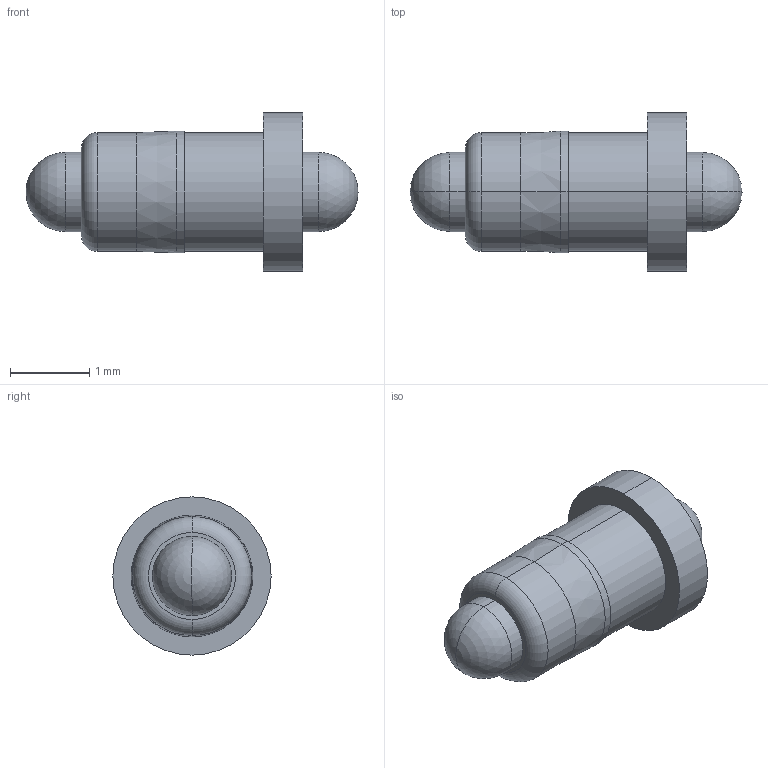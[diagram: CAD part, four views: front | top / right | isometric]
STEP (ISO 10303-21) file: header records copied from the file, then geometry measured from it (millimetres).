
FILE_DESCRIPTION((''),'2;1');
FILE_NAME('PRT0005','2023-05-31T16:45:17',('Administrator'),(''),'CREO PARAMETRIC BY PTC INC, 2018400','CREO PARAMETRIC BY PTC INC, 2018400','');
FILE_SCHEMA(('CONFIG_CONTROL_DESIGN'));
Length unit declared in the file: millimetre
Products named in the file (1): PRT0005
Bounding box: 4.2 x 2 x 2 mm (x, y, z)
Volume: 6.5 mm3; surface area: 22.8 mm2
Topology: 1 solids, 1 shells, 24 faces, 50 edges, 28 vertices
Faces by surface type: cylinder 12, plane 4, sphere 4, cone 2, torus 2
Entity records: 656 total; most frequent: DIRECTION 126, CARTESIAN_POINT 98, ORIENTED_EDGE 92, AXIS2_PLACEMENT_3D 56, EDGE_CURVE 46, CIRCLE 32, VERTEX_POINT 28, EDGE_LOOP 28
